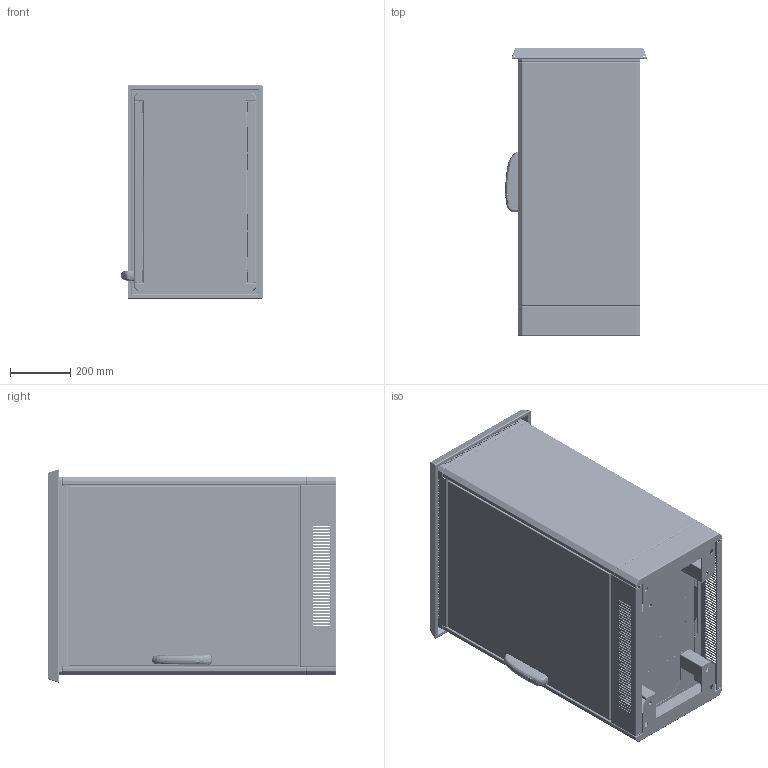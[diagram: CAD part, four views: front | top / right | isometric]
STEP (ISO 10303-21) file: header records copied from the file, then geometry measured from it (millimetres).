
FILE_DESCRIPTION (( 'STEP AP203' ), '1' );
FILE_NAME ('EVIS060804SA.STEP', '2021-03-15T14:17:09', ( '' ), ( '' ), 'SwSTEP 2.0', 'SolidWorks 2019', '' );
FILE_SCHEMA (( 'CONFIG_CONTROL_DESIGN' ));
Products named in the file (8): AR_E-VIS_Retro_EVPA_0600x0800; EVIS060804SA; AR_Tetto E-VIS_SA_0600x0400; AR_E-VIS_Assieme porta singola_0600x0800_SA; AR_E-VIS_Zoccolo SA_0600x0400_areata; AR_E-VIS_struttura_SASM_0600x0800x0400; AR_E-VIS_Porta singola cieca_0600x0800_SA; AR_ENUX_nuova_maniglia_mesan
Assembly tree (7 placements, depth 3):
  EVIS060804SA
    AR_E-VIS_struttura_SASM_0600x0800x0400
    AR_Tetto E-VIS_SA_0600x0400
    AR_E-VIS_Retro_EVPA_0600x0800
    AR_E-VIS_Assieme porta singola_0600x0800_SA
      AR_E-VIS_Porta singola cieca_0600x0800_SA
      AR_ENUX_nuova_maniglia_mesan
    AR_E-VIS_Zoccolo SA_0600x0400_areata
Bounding box: 469.71 x 956.34 x 707.91 mm (x, y, z)
Volume: 9460016.7 mm3; surface area: 8524452.3 mm2
Topology: 10 solids, 10 shells, 4531 faces, 12683 edges, 8180 vertices
Faces by surface type: cylinder 2245, plane 2073, sphere 124, bspline 41, torus 26, cone 22
Entity records: 153009 total; most frequent: CARTESIAN_POINT 29975, DIRECTION 25903, ORIENTED_EDGE 25090, EDGE_CURVE 12545, AXIS2_PLACEMENT_3D 9005, VERTEX_POINT 8180, VECTOR 7893, LINE 7893
